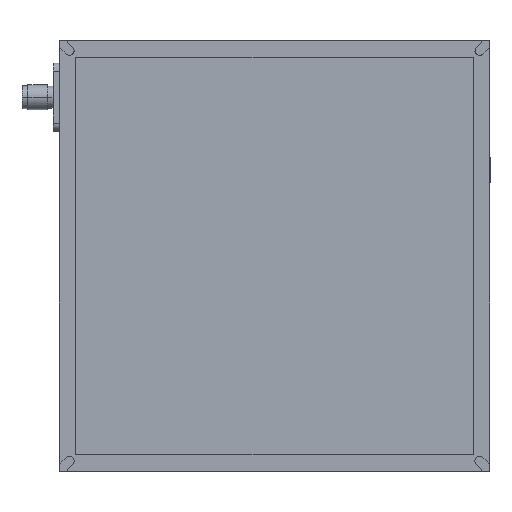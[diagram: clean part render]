
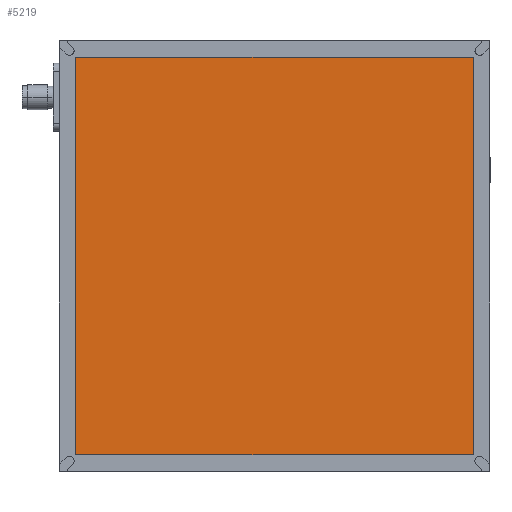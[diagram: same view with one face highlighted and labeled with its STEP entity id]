
A CAD part, top view. The second image highlights one B-rep face of the part: STEP entity #5219.
In plain terms, the highlighted planar face has unit normal (0, 0, 1).
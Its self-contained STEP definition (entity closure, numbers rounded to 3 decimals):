
#245 = DIRECTION ( 'NONE',  ( 0., 0., -1. ) ) ;
#539 = DIRECTION ( 'NONE',  ( 0., -1., 0. ) ) ;
#910 = CARTESIAN_POINT ( 'NONE',  ( 0., 196., 41.85 ) ) ;
#941 = VECTOR ( 'NONE', #539, 1000. ) ;
#1500 = VECTOR ( 'NONE', #4217, 1000. ) ;
#1748 = CARTESIAN_POINT ( 'NONE',  ( 4., 0., 41.85 ) ) ;
#2136 = CARTESIAN_POINT ( 'NONE',  ( 4., 196., 41.85 ) ) ;
#2915 = CARTESIAN_POINT ( 'NONE',  ( 0., 4., 41.85 ) ) ;
#3016 = EDGE_CURVE ( 'NONE', #13795, #10125, #8488, .T. ) ;
#3621 = DIRECTION ( 'NONE',  ( 0., 1., 0. ) ) ;
#4156 = CARTESIAN_POINT ( 'NONE',  ( 0., 0., 41.85 ) ) ;
#4217 = DIRECTION ( 'NONE',  ( 1., 0., 0. ) ) ;
#4298 = CARTESIAN_POINT ( 'NONE',  ( 196., 196., 41.85 ) ) ;
#4540 = EDGE_CURVE ( 'NONE', #8930, #12414, #12835, .T. ) ;
#5219 = ADVANCED_FACE ( 'NONE', ( #12072 ), #13211, .F. ) ;
#6839 = AXIS2_PLACEMENT_3D ( 'NONE', #4156, #245, #10513 ) ;
#7083 = ORIENTED_EDGE ( 'NONE', *, *, #12599, .T. ) ;
#7153 = LINE ( 'NONE', #1748, #941 ) ;
#8488 = LINE ( 'NONE', #2915, #1500 ) ;
#8930 = VERTEX_POINT ( 'NONE', #4298 ) ;
#9534 = ORIENTED_EDGE ( 'NONE', *, *, #4540, .T. ) ;
#10125 = VERTEX_POINT ( 'NONE', #14427 ) ;
#10513 = DIRECTION ( 'NONE',  ( -1., 0., 0. ) ) ;
#10660 = ORIENTED_EDGE ( 'NONE', *, *, #12895, .T. ) ;
#11526 = DIRECTION ( 'NONE',  ( -1., 0., 0. ) ) ;
#11703 = EDGE_LOOP ( 'NONE', ( #10660, #9534, #7083, #14257 ) ) ;
#12072 = FACE_OUTER_BOUND ( 'NONE', #11703, .T. ) ;
#12414 = VERTEX_POINT ( 'NONE', #2136 ) ;
#12599 = EDGE_CURVE ( 'NONE', #12414, #13795, #7153, .T. ) ;
#12835 = LINE ( 'NONE', #910, #14068 ) ;
#12895 = EDGE_CURVE ( 'NONE', #10125, #8930, #15562, .T. ) ;
#13211 = PLANE ( 'NONE',  #6839 ) ;
#13795 = VERTEX_POINT ( 'NONE', #15639 ) ;
#14068 = VECTOR ( 'NONE', #11526, 1000. ) ;
#14257 = ORIENTED_EDGE ( 'NONE', *, *, #3016, .T. ) ;
#14427 = CARTESIAN_POINT ( 'NONE',  ( 196., 4., 41.85 ) ) ;
#14819 = VECTOR ( 'NONE', #3621, 1000. ) ;
#15304 = CARTESIAN_POINT ( 'NONE',  ( 196., 0., 41.85 ) ) ;
#15562 = LINE ( 'NONE', #15304, #14819 ) ;
#15639 = CARTESIAN_POINT ( 'NONE',  ( 4., 4., 41.85 ) ) ;
